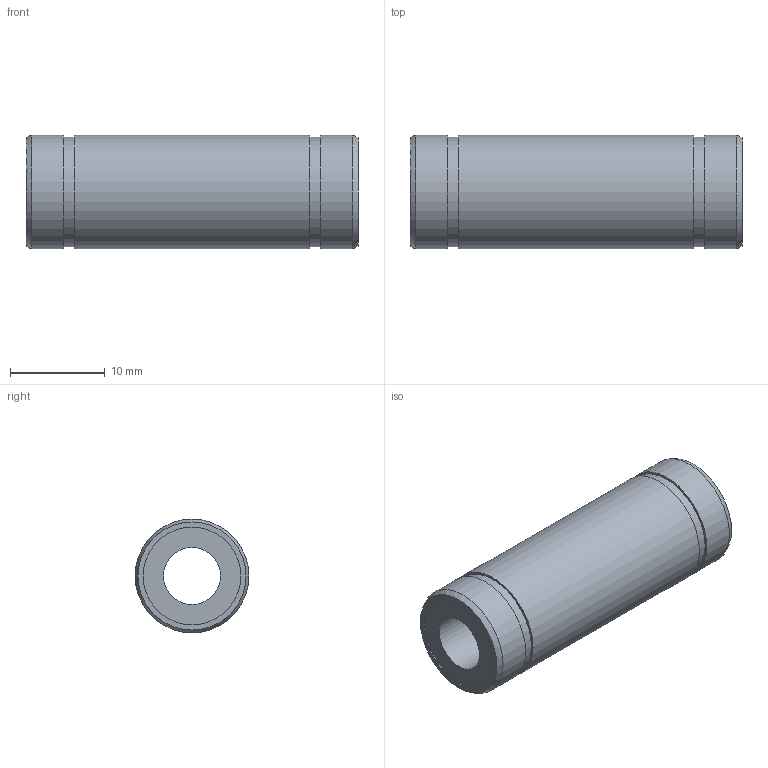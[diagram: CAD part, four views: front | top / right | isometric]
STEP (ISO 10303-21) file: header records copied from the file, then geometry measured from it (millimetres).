
FILE_DESCRIPTION((''),'2;1');
FILE_NAME('D:\製品 (図面)\カタログ用3D\リニアベアリング関連\STEP形式\LD\LD6.stp','2010-06-02T17:39:43',('Tsuchiya'),(''),'Autodesk Inventor 10','Autodesk Inventor 10','');
FILE_SCHEMA(('AUTOMOTIVE_DESIGN { 1 0 10303 214 1 1 1 1 }'));
Length unit declared in the file: millimetre
Products named in the file (1): LD6
Bounding box: 35 x 12 x 12 mm (x, y, z)
Volume: 2931 mm3; surface area: 2166.9 mm2
Topology: 1 solids, 1 shells, 18 faces, 28 edges, 18 vertices
Faces by surface type: plane 8, cylinder 8, bspline 2
Full cylindrical faces by diameter (mm): 6 x1, 10.3 x2, 11.5 x2, 12 x3
Entity records: 435 total; most frequent: CARTESIAN_POINT 107, DIRECTION 70, ORIENTED_EDGE 36, EDGE_LOOP 36, AXIS2_PLACEMENT_3D 35, VERTEX_POINT 18, CIRCLE 18, EDGE_CURVE 18
